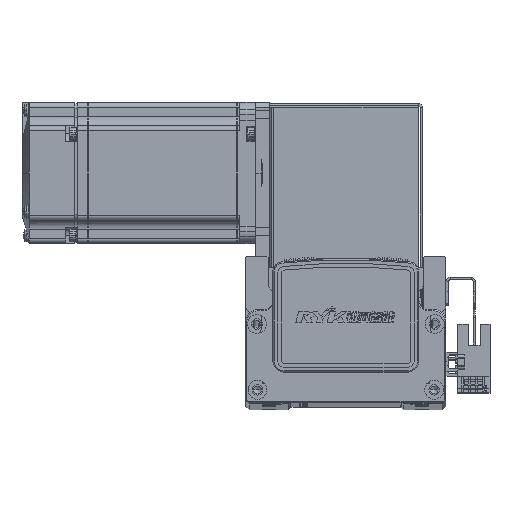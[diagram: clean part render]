
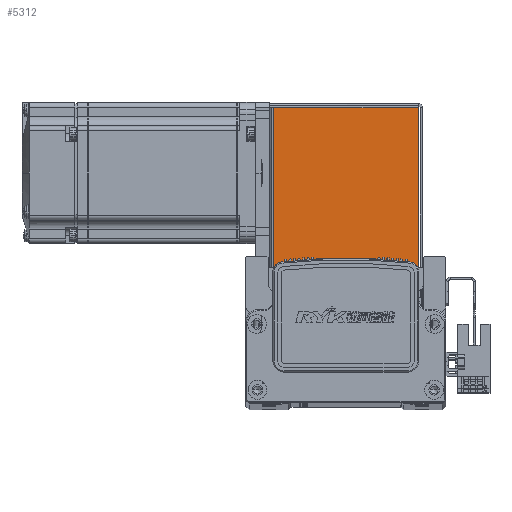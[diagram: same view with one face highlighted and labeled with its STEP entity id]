
A CAD part, top view. The second image highlights one B-rep face of the part: STEP entity #5312.
In plain terms, the highlighted planar face has unit normal (0, 0, 1).
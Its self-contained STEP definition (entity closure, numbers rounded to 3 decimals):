
#653 = CARTESIAN_POINT ( 'NONE',  ( 0., 0., 35. ) ) ;
#658 = DIRECTION ( 'NONE',  ( 0., 0., -1. ) ) ;
#673 = PLANE ( 'NONE',  #71032 ) ;
#690 = DIRECTION ( 'NONE',  ( -1., 0., 0. ) ) ;
#4114 = CARTESIAN_POINT ( 'NONE',  ( -30.793, 0.737, 35. ) ) ;
#4122 = CARTESIAN_POINT ( 'NONE',  ( -30.793, 68.5, 35. ) ) ;
#4129 = CARTESIAN_POINT ( 'NONE',  ( 30.763, 68.5, 35. ) ) ;
#4162 = CARTESIAN_POINT ( 'NONE',  ( 30.763, 0.737, 35. ) ) ;
#5312 = ADVANCED_FACE ( 'NONE', ( #68121 ), #673, .F. ) ;
#7036 = EDGE_CURVE ( 'NONE', #73439, #73425, #69566, .T. ) ;
#7072 = EDGE_CURVE ( 'NONE', #73425, #73379, #69638, .T. ) ;
#7101 = EDGE_CURVE ( 'NONE', #73414, #73379, #69976, .T. ) ;
#7119 = EDGE_CURVE ( 'NONE', #73439, #73414, #70004, .T. ) ;
#18223 = EDGE_LOOP ( 'NONE', ( #61259, #61177, #61155, #61197 ) ) ;
#61155 = ORIENTED_EDGE ( 'NONE', *, *, #7072, .F. ) ;
#61177 = ORIENTED_EDGE ( 'NONE', *, *, #7101, .T. ) ;
#61197 = ORIENTED_EDGE ( 'NONE', *, *, #7036, .F. ) ;
#61259 = ORIENTED_EDGE ( 'NONE', *, *, #7119, .T. ) ;
#68121 = FACE_OUTER_BOUND ( 'NONE', #18223, .T. ) ;
#69444 = VECTOR ( 'NONE', #69859, 1000. ) ;
#69566 = LINE ( 'NONE', #69862, #69444 ) ;
#69638 = LINE ( 'NONE', #70311, #69823 ) ;
#69823 = VECTOR ( 'NONE', #70230, 1000. ) ;
#69859 = DIRECTION ( 'NONE',  ( -1., 0., 0. ) ) ;
#69862 = CARTESIAN_POINT ( 'NONE',  ( -32.5, 0.737, 35. ) ) ;
#69966 = VECTOR ( 'NONE', #70622, 1000. ) ;
#69976 = LINE ( 'NONE', #70529, #69966 ) ;
#69992 = VECTOR ( 'NONE', #70646, 1000. ) ;
#70004 = LINE ( 'NONE', #70752, #69992 ) ;
#70230 = DIRECTION ( 'NONE',  ( 0., 1., 0. ) ) ;
#70311 = CARTESIAN_POINT ( 'NONE',  ( -30.793, 0., 35. ) ) ;
#70529 = CARTESIAN_POINT ( 'NONE',  ( 0., 68.5, 35. ) ) ;
#70622 = DIRECTION ( 'NONE',  ( -1., 0., 0. ) ) ;
#70646 = DIRECTION ( 'NONE',  ( 0., 1., 0. ) ) ;
#70752 = CARTESIAN_POINT ( 'NONE',  ( 30.763, 0.737, 35. ) ) ;
#71032 = AXIS2_PLACEMENT_3D ( 'NONE', #653, #658, #690 ) ;
#73379 = VERTEX_POINT ( 'NONE', #4122 ) ;
#73414 = VERTEX_POINT ( 'NONE', #4129 ) ;
#73425 = VERTEX_POINT ( 'NONE', #4114 ) ;
#73439 = VERTEX_POINT ( 'NONE', #4162 ) ;
